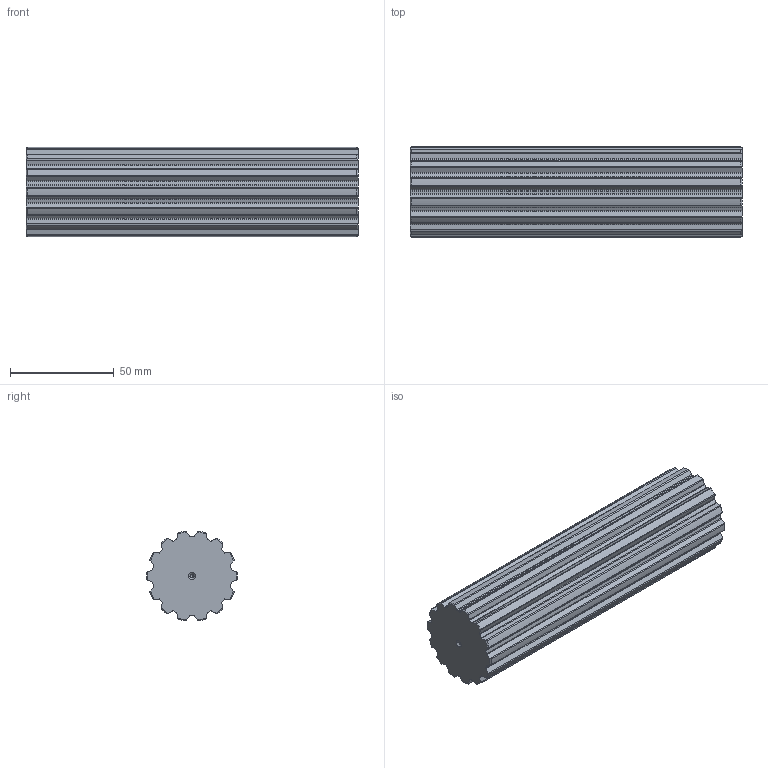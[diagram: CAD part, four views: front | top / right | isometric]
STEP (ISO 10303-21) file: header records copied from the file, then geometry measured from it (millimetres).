
FILE_DESCRIPTION(('STEP AP203'),'1');
FILE_NAME('barat_14.stp','2018-11-13T10:53:06',('TraceParts'),('TraceParts S.A.'),'Spatial InterOp 3D',' ',' ');
FILE_SCHEMA(('CONFIG_CONTROL_DESIGN'));
Length unit declared in the file: millimetre
Products named in the file (1): 1
Bounding box: 160 x 43.56 x 43.08 mm (x, y, z)
Volume: 214171 mm3; surface area: 29448.2 mm2
Topology: 1 solids, 1 shells, 160 faces, 466 edges, 306 vertices
Faces by surface type: cylinder 90, cone 40, plane 30
Entity records: 5570 total; most frequent: CARTESIAN_POINT 1433, ORIENTED_EDGE 924, DIRECTION 836, EDGE_CURVE 462, AXIS2_PLACEMENT_3D 325, VERTEX_POINT 306, LINE 186, VECTOR 186
